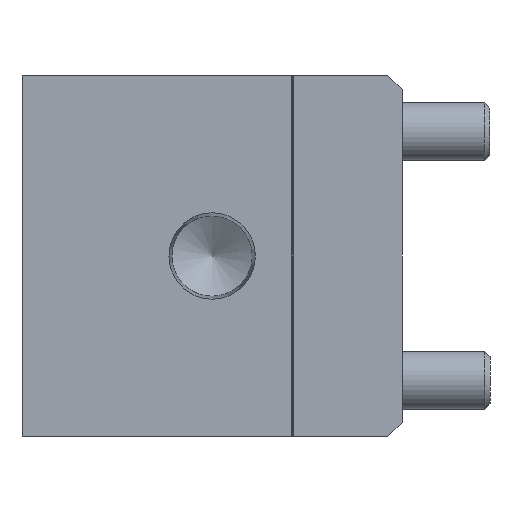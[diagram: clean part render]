
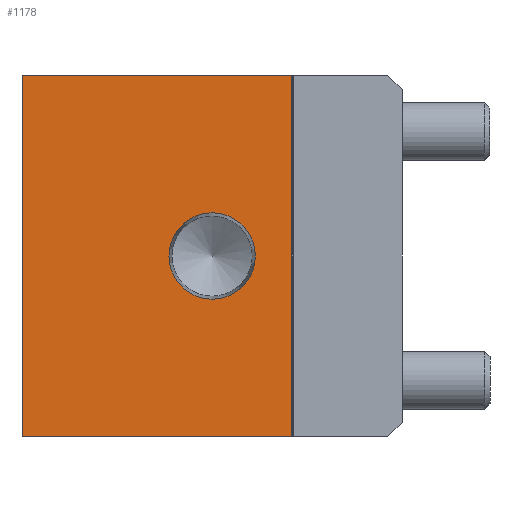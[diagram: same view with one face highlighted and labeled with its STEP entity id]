
A CAD part, left-side view. The second image highlights one B-rep face of the part: STEP entity #1178.
In plain terms, the highlighted planar face has unit normal (-1, 0, 0).
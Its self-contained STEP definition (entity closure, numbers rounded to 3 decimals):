
#1178 = ADVANCED_FACE( '', ( #2429, #2430 ), #2431, .F. );
#2429 = FACE_BOUND( '', #3668, .T. );
#2430 = FACE_OUTER_BOUND( '', #3669, .T. );
#2431 = PLANE( '', #3670 );
#3668 = EDGE_LOOP( '', ( #6341 ) );
#3669 = EDGE_LOOP( '', ( #6342, #6343, #6344, #6345 ) );
#3670 = AXIS2_PLACEMENT_3D( '', #6346, #6347, #6348 );
#6341 = ORIENTED_EDGE( '', *, *, #7502, .T. );
#6342 = ORIENTED_EDGE( '', *, *, #7511, .F. );
#6343 = ORIENTED_EDGE( '', *, *, #6789, .F. );
#6344 = ORIENTED_EDGE( '', *, *, #7060, .T. );
#6345 = ORIENTED_EDGE( '', *, *, #7398, .T. );
#6346 = CARTESIAN_POINT( '', ( 0., 52., 24.75 ) );
#6347 = DIRECTION( '', ( 1., 0., 0. ) );
#6348 = DIRECTION( '', ( 0., 0., -1. ) );
#6789 = EDGE_CURVE( '', #7998, #8000, #8001, .T. );
#7060 = EDGE_CURVE( '', #7998, #8416, #8418, .T. );
#7398 = EDGE_CURVE( '', #8416, #7607, #8852, .T. );
#7502 = EDGE_CURVE( '', #8968, #8968, #8969, .T. );
#7511 = EDGE_CURVE( '', #8000, #7607, #8980, .T. );
#7607 = VERTEX_POINT( '', #9084 );
#7998 = VERTEX_POINT( '', #9598 );
#8000 = VERTEX_POINT( '', #9601 );
#8001 = LINE( '', #9602, #9603 );
#8416 = VERTEX_POINT( '', #10152 );
#8418 = LINE( '', #10155, #10156 );
#8852 = LINE( '', #10734, #10735 );
#8968 = VERTEX_POINT( '', #10881 );
#8969 = CIRCLE( '', #10882, 5.91 );
#8980 = LINE( '', #10894, #10895 );
#9084 = CARTESIAN_POINT( '', ( 0., 15.1, -24.75 ) );
#9598 = CARTESIAN_POINT( '', ( 0., 52., 24.75 ) );
#9601 = CARTESIAN_POINT( '', ( 0., 15.1, 24.75 ) );
#9602 = CARTESIAN_POINT( '', ( 0., 52., 24.75 ) );
#9603 = VECTOR( '', #11277, 1000. );
#10152 = CARTESIAN_POINT( '', ( 0., 52., -24.75 ) );
#10155 = CARTESIAN_POINT( '', ( 0., 52., 24.75 ) );
#10156 = VECTOR( '', #11620, 1000. );
#10734 = CARTESIAN_POINT( '', ( 0., 52., -24.75 ) );
#10735 = VECTOR( '', #11945, 1000. );
#10881 = CARTESIAN_POINT( '', ( 0., 26., -5.91 ) );
#10882 = AXIS2_PLACEMENT_3D( '', #12021, #12022, #12023 );
#10894 = CARTESIAN_POINT( '', ( 0., 15.1, 24.75 ) );
#10895 = VECTOR( '', #12031, 1000. );
#11277 = DIRECTION( '', ( 0., -1., 0. ) );
#11620 = DIRECTION( '', ( 0., 0., -1. ) );
#11945 = DIRECTION( '', ( 0., -1., 0. ) );
#12021 = CARTESIAN_POINT( '', ( 0., 26., 0. ) );
#12022 = DIRECTION( '', ( 1., 0., 0. ) );
#12023 = DIRECTION( '', ( 0., 0., -1. ) );
#12031 = DIRECTION( '', ( 0., 0., -1. ) );
